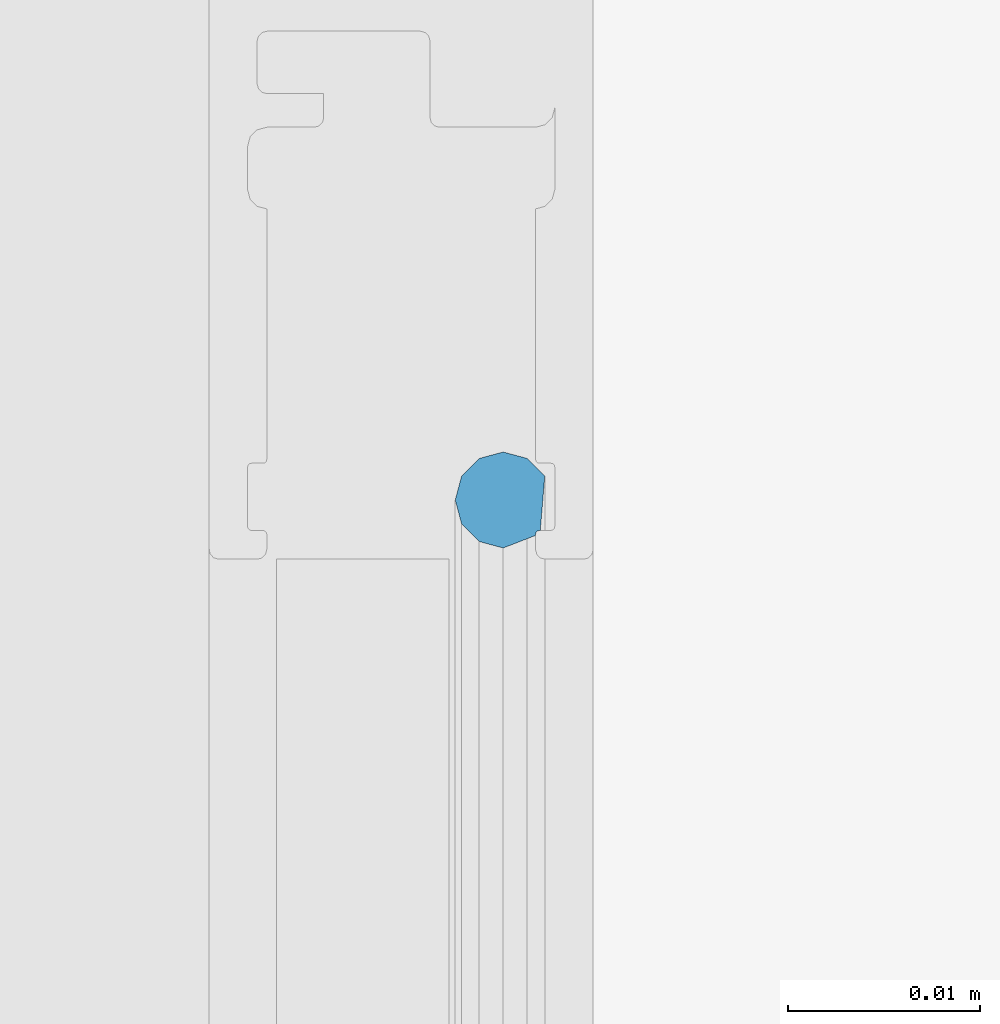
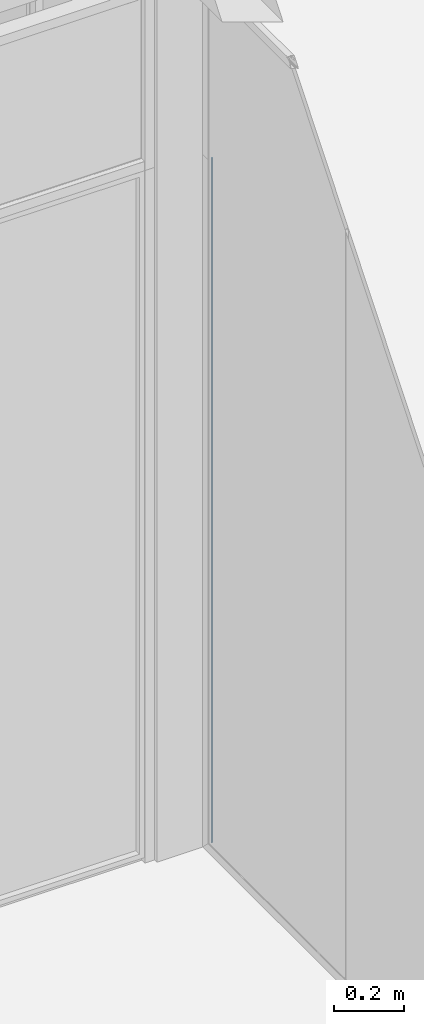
# One storey, part 65 of 387: 1 building element part, 2 elements without a shape of their own.
"""IFC2X3 building model written with IfcOpenShell, lengths in millimetres."""

from ifc_helpers import new_model, entity, si_unit, converted_unit, derived_unit, money_unit, direction, frame, origin_with_axes, place, context, subcontext, project, spatial, faceted_brep, source, transform, mapped, material, type_object, element, aggregate, save


model = new_model("IFC2X3")

# Units and contexts
model_context = context("Model", 3, precision=0.01, world=origin_with_axes(), true_north=direction((0.0, 1.0)))
body_context = subcontext(model_context, "Body", "Model", "MODEL_VIEW")
ifc_project = project(units=[si_unit("LENGTHUNIT", "METRE", prefix="MILLI"), si_unit("AREAUNIT", "SQUARE_METRE"), si_unit("VOLUMEUNIT", "CUBIC_METRE"), converted_unit("PLANEANGLEUNIT", "DEGREE", entity("IfcPlaneAngleMeasure", 0.0174532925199), si_unit("PLANEANGLEUNIT", "RADIAN"), dimensions=[0, 0, 0, 0, 0, 0, 0]), si_unit("SOLIDANGLEUNIT", "STERADIAN"), money_unit("EUR"), converted_unit("TIMEUNIT", "Year", entity("IfcTimeMeasure", 31556926.0), si_unit("TIMEUNIT", "SECOND"), dimensions=[0, 0, 1, 0, 0, 0, 0]), si_unit("MASSUNIT", "GRAM", prefix="KILO"), si_unit("THERMODYNAMICTEMPERATUREUNIT", "DEGREE_CELSIUS"), si_unit("LUMINOUSINTENSITYUNIT", "LUMEN"), si_unit("ENERGYUNIT", "JOULE", prefix="MEGA"), derived_unit("THERMALCONDUCTANCEUNIT", [(si_unit("POWERUNIT", "WATT"), 1), (si_unit("LENGTHUNIT", "METRE"), -1), (si_unit("THERMODYNAMICTEMPERATUREUNIT", "KELVIN"), -1)]), derived_unit("SPECIFICHEATCAPACITYUNIT", [(si_unit("ENERGYUNIT", "JOULE"), 1), (si_unit("MASSUNIT", "GRAM", prefix="KILO"), -1), (si_unit("THERMODYNAMICTEMPERATUREUNIT", "KELVIN"), -1)]), derived_unit("MASSDENSITYUNIT", [(si_unit("MASSUNIT", "GRAM", prefix="KILO"), 1), (si_unit("VOLUMEUNIT", "CUBIC_METRE"), -1)])], contexts=[model_context])

# Site, building, storey
site_placement = place(None, origin_with_axes())
site = spatial("IfcSite", under=ifc_project, at=site_placement, Name="Puškini 31, Narva", CompositionType="ELEMENT")
building_placement = place(site_placement, origin_with_axes())
building = spatial("IfcBuilding", under=site, at=building_placement, Name="Narva Riigigümnaasium", CompositionType="ELEMENT")
storey_placement = place(building_placement, frame((0.0, 0.0, 2640.0), z_axis=(0.0, 0.0, 1.0), x_axis=(1.0, 0.0, 0.0)))
storey = spatial("IfcBuildingStorey", under=building, at=storey_placement, Name="2.korrus +2.64", CompositionType="ELEMENT", Elevation=2640.0)

# Curtain wall, member, building element part
curtain_wall_type = type_object("IfcCurtainWallType", Name="Curtain Wall Type", PredefinedType="NOTDEFINED")
curtain_wall_placement = place(storey_placement, frame((28390.0000002, 176724.161139, -5.42380846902e-05), z_axis=(0.0, 0.0, 1.0), x_axis=(1.0, 0.0, 0.0)))
curtain_wall = element("IfcCurtainWall", 1, at=curtain_wall_placement, inside=storey, type_object=curtain_wall_type, Name="G-SKLF-12")
member_type = type_object("IfcMemberType", Name="30 x 10", PredefinedType="MULLION")
member_placement = place(curtain_wall_placement, frame((-3.4056313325e-08, 2205.81089237, 0.0), z_axis=(0.0, 0.0, 1.0), x_axis=(0.0, 1.0, 0.0)))
member = element("IfcMember", 2, at=member_placement, type_object=member_type, Name="G-SKLF-12-raam", ObjectType="MULLION")
aggregate(curtain_wall, [member])
ifc_material = material(Name="Membraan - Veekindel")
shared_shape = source(origin_with_axes(), body_context, "Body", "Brep", [
    faceted_brep([(25.6641727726, 7.48000965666, 25.6641727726), (25.6641727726, 7.48000965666, 2400.00000922), (28.5, 7.24760028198, 2400.00000922), (28.5, 7.24760028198, 28.5), (24.7491092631, 6.56494614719, 24.7491092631), (24.7491092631, 6.56494614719, 2400.00000922), (24.4141727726, 5.31494614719, 2400.00000922), (24.7491092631, 4.06494614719, 2400.00000922), (25.6641727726, 3.14988263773, 2400.00000922), (26.9141727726, 2.81494614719, 2400.00000922), (28.1641727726, 3.14988263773, 2400.00000922), (29.079236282, 4.06494614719, 2400.00000922), (29.4141727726, 5.31494614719, 2400.00000922), (28.7609519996, 6.99999999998, 2400.00000922), (28.7, 6.99999999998, 2400.00000922), (28.6, 7.02679491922, 2400.00000922), (28.5267949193, 7.09999999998, 2400.00000922), (28.5, 7.19999999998, 2400.00000922), (28.5, 7.19999999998, 28.5), (28.5267949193, 7.09999999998, 28.5267949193), (28.6, 7.02679491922, 28.6), (28.7, 6.99999999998, 28.7), (28.7609519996, 6.99999999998, 28.7609519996), (29.4141727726, 5.31494614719, 29.4141727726), (29.079236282, 4.06494614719, 29.079236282), (28.1641727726, 3.14988263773, 28.1641727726), (26.9141727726, 2.81494614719, 26.9141727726), (25.6641727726, 3.14988263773, 25.6641727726), (24.7491092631, 4.06494614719, 24.7491092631), (24.4141727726, 5.31494614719, 24.4141727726)], [[[0, 1, 2, 3]], [[4, 5, 1, 0]], [[2, 1, 5, 6, 7, 8, 9, 10, 11, 12, 13, 14, 15, 16, 17]], [[3, 2, 17, 18]], [[3, 18, 19, 20, 21, 22, 23, 24, 25, 26, 27, 28, 29, 4, 0]], [[29, 6, 5, 4]], [[28, 7, 6, 29]], [[27, 8, 7, 28]], [[26, 9, 8, 27]], [[25, 10, 9, 26]], [[24, 11, 10, 25]], [[23, 12, 11, 24]], [[22, 13, 12, 23]], [[21, 14, 13, 22]], [[20, 15, 14, 21]], [[19, 16, 15, 20]], [[18, 17, 16, 19]]]),
])
building_element_part_placement = place(member_placement, origin_with_axes())
building_element_part = element("IfcBuildingElementPart", 3, at=building_element_part_placement, material=ifc_material, Name="Membraan - Veekindel", context=body_context, shape_type="MappedRepresentation", body=[
    mapped(shared_shape, transform((0.0, 0.0, 0.0), x_axis=(-1.0, 0.0, 0.0), y_axis=(0.0, -1.0, 0.0), z_axis=(0.0, 0.0, 1.0))),
])
aggregate(member, [building_element_part])

save(model, "model.ifc")
